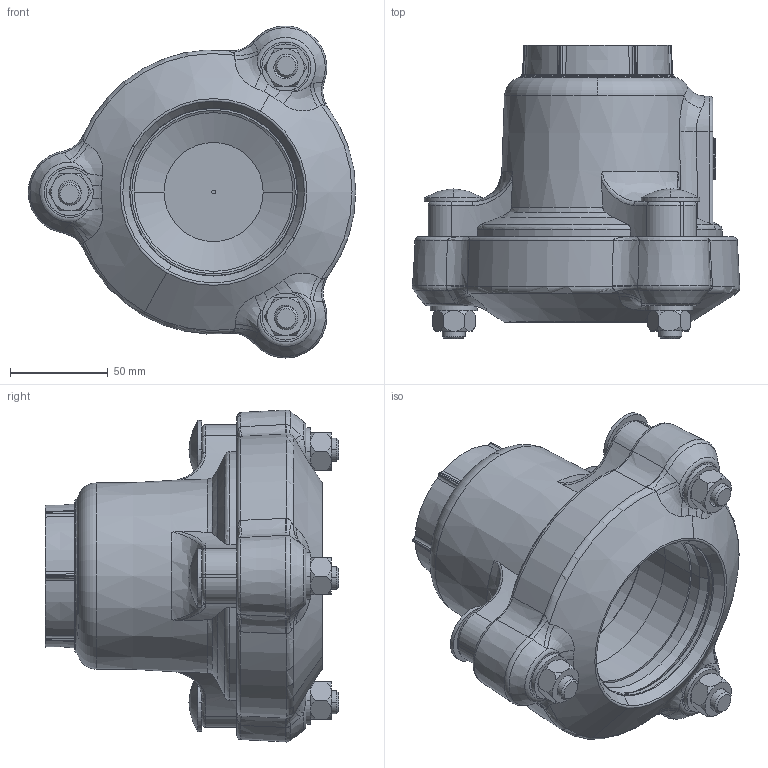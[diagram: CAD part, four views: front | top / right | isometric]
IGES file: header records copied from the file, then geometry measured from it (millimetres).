
Global section: file name: No Iges File Name specified; native system: AutoDesk Inventor R12.0; preprocessor: AutoDesk Inventor Iges Exporter R12.0; date: 20120427.145326; units: millimetre
Bounding box: 167.37 x 149.92 x 169.7 mm (x, y, z)
Volume: 538197.4 mm3; surface area: 173561.8 mm2
Topology: 1 solids, 1 shells, 595 faces, 1609 edges, 1023 vertices
Faces by surface type: plane 151, revolution 121, bspline 117, cone 80, cylinder 64, torus 62
